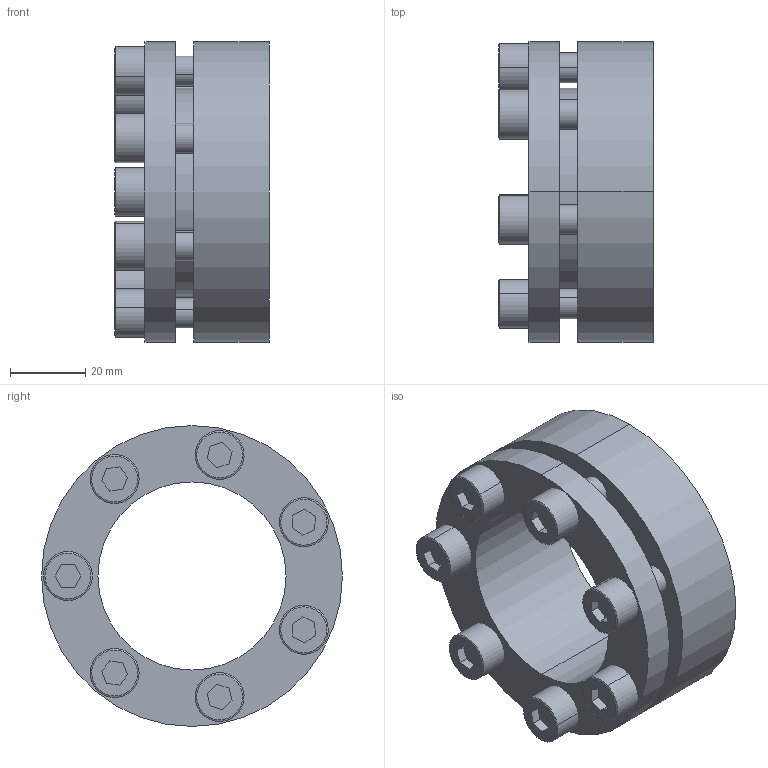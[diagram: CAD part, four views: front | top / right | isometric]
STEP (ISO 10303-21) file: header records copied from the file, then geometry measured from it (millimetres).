
FILE_DESCRIPTION (( 'STEP AP203' ), '1' );
FILE_NAME ('SDS-50.step', '2009-09-29T16:21:07', ( 'USER' ), ( 'HOME' ), 'SwSTEP 2.0', 'SolidWorks 2007', '' );
FILE_SCHEMA (( 'CONFIG_CONTROL_DESIGN' ));
Length unit declared in the file: millimetre
Products named in the file (1): SDS-50
Bounding box: 41 x 80 x 80 mm (x, y, z)
Volume: 97523.9 mm3; surface area: 37042 mm2
Topology: 8 solids, 8 shells, 152 faces, 346 edges, 226 vertices
Faces by surface type: plane 74, cylinder 64, cone 14
Entity records: 4423 total; most frequent: DIRECTION 794, CARTESIAN_POINT 725, ORIENTED_EDGE 692, EDGE_CURVE 346, AXIS2_PLACEMENT_3D 295, VERTEX_POINT 226, VECTOR 204, LINE 204
